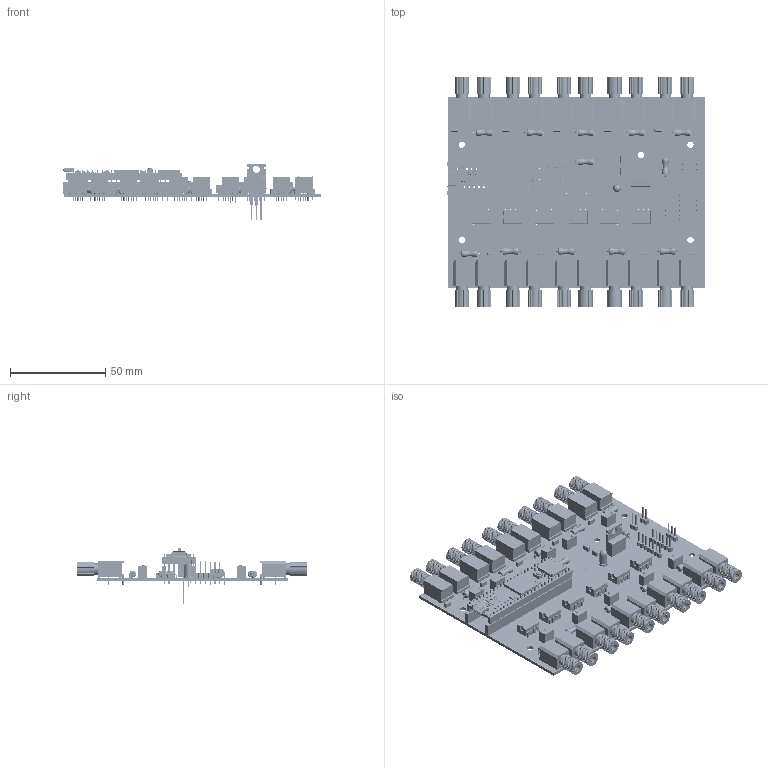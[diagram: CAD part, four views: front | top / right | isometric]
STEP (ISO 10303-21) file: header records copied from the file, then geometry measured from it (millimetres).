
FILE_DESCRIPTION(/* description */ (''),/* implementation_level */ '2;1');
FILE_NAME(/* name */ 'C:/Users/cyra/git/engineering_doc/game_controller/CAD/stp/neuromod_game_controller v1.step',/* time_stamp */ '2022-06-06T09:19:41-04:00',/* author */ (''),/* organization */ (''),/* preprocessor_version */ 'ST-DEVELOPER v19',/* originating_system */ 'Autodesk Translation Framework v11.7.0.108',/* authorisation */ '');
FILE_SCHEMA (('AUTOMOTIVE_DESIGN { 1 0 10303 214 3 1 1 }'));
Products named in the file (59): neuromod_game_controller v1; Board; 1-copper; 16-copper; 1-soldermask; 16-soldermask; Packages; DIL08; TO-220-ALT; TEENSY_3.5/3.6; Teensy 3.5 - 3.6 v1; micro_usb (1); micro_usb_plastic (1); micro_usb_shell (1); #548822; qfp16 v2 (1); package; lead (1); wson-6 v3; Component28; lead (2); cap0402 v2 (1); smt_led_0805 v2; cap0603_03 v3; diode_0402 v1; cap0402 v2; resistor_0603 v3; smt_tactile_button_2 v2; Component43; Component44; Component45; Component46; Full Board; Component37; qfp16 v2; Component21; lead; crystal_dfn4 v8; Component38; Component39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
Assembly tree (136 placements, depth 7):
  neuromod_game_controller v1
    Board
    1-copper
    16-copper
    1-soldermask
    16-soldermask
    Packages
      DIL08  x6
      TO-220-ALT
      TEENSY_3.5/3.6
        Teensy 3.5 - 3.6 v1
          micro_usb (1)
            #548822  x5
            micro_usb_plastic (1)
            micro_usb_shell (1)
          qfp16 v2 (1)
            package
            lead (1)
          wson-6 v3
            Component28
            lead (2)
          diode_0402 v1  x4
          cap0603_03 v3  x5
          cap0402 v2 (1)  x2
          smt_led_0805 v2
          cap0402 v2  x5
          resistor_0603 v3
          smt_tactile_button_2 v2
            Component43
            Component44
            Component45
            Component46
          Full Board
          Component37
          qfp16 v2
            Component21
            lead
          crystal_dfn4 v8
            Component38
            Component39
            Component40
            Component41
          HR5 DM3D Micro SD Card v4
            Base
            Pins
              Component2  x8
            Case
          Component38 (1)
          Component39 (1)
      SFH-V  x10
      SFH-V2  x10
      LED5MM
      1X02  x2
      1X03
      1X06
      1X07
      0207/10  x12
      C025-024X044  x12
      PT-10S  x10
Bounding box: 135.15 x 120.81 x 29 mm (x, y, z)
Volume: 56721.2 mm3; surface area: 138282.3 mm2
Topology: 1657 solids, 1657 shells, 26597 faces, 67277 edges, 44248 vertices
Faces by surface type: plane 15006, cylinder 11007, bspline 271, sphere 245, torus 66, cone 2
Full cylindrical faces by diameter (mm): 0.28 x75, 0.35 x30, 0.5 x2, 0.6 x114, 0.743 x1316, 0.762 x6, 0.813 x376, 0.895 x434, 0.946 x371, 0.965 x124, 1 x80, 1.016 x106, 1.065 x115, 1.5 x10, 3.3 x12, 3.302 x3, 3.6 x24, 3.7 x1, 4.1 x1, 4.4 x20, 5.1 x1, 6 x20
Entity records: 548994 total; most frequent: CARTESIAN_POINT 97700, DIRECTION 93442, ORIENTED_EDGE 88258, EDGE_CURVE 44129, AXIS2_PLACEMENT_3D 31308, LINE 30826, VECTOR 30826, VERTEX_POINT 29182
